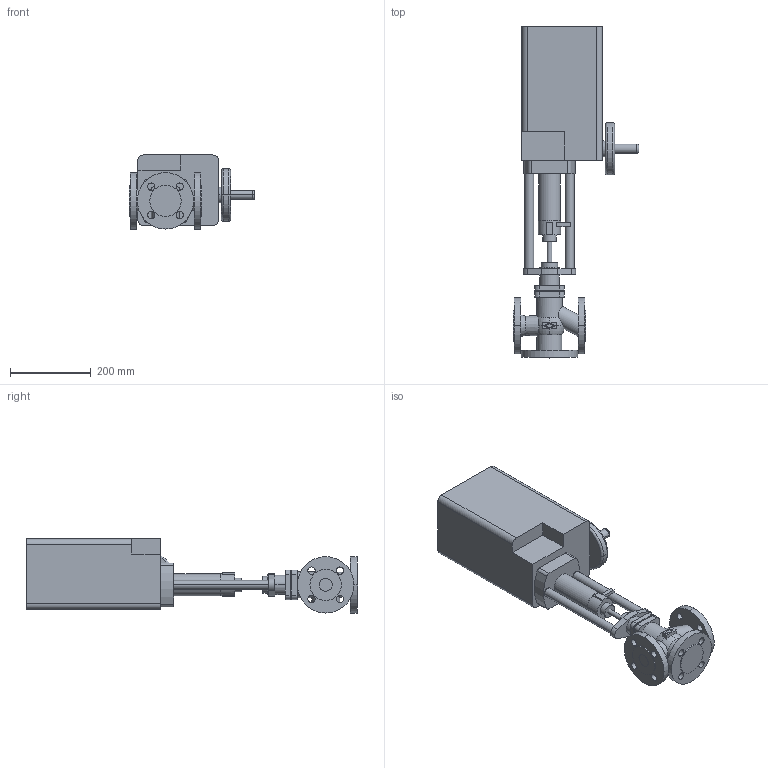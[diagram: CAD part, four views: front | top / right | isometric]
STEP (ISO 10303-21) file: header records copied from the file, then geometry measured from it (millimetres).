
FILE_DESCRIPTION(('OneSpaceDesigner STEP Export'),'2;1');
FILE_NAME('c000002418.stp','2006-09-19T12:09:17',(''),(''),'OneSpace Designer STEP processor for AP214 (Solid Model)','OneSpace Designer 13.20A 18-Aug-2005 (C) CoCreate Software GmbH','');
FILE_SCHEMA(('AUTOMOTIVE_DESIGN { 1 0 10303 214 1 1 1 1 }'));
Length unit declared in the file: millimetre
Products named in the file (2): 1; 2
Bounding box: 311.6 x 823.5 x 184 mm (x, y, z)
Volume: 14339966 mm3; surface area: 621595.9 mm2
Topology: 2 solids, 2 shells, 198 faces, 490 edges, 325 vertices
Faces by surface type: cylinder 96, plane 86, torus 12, cone 4
Entity records: 5686 total; most frequent: CARTESIAN_POINT 1239, ORIENTED_EDGE 980, DIRECTION 825, EDGE_CURVE 490, VERTEX_POINT 325, AXIS2_PLACEMENT_3D 295, EDGE_LOOP 251, VECTOR 235
